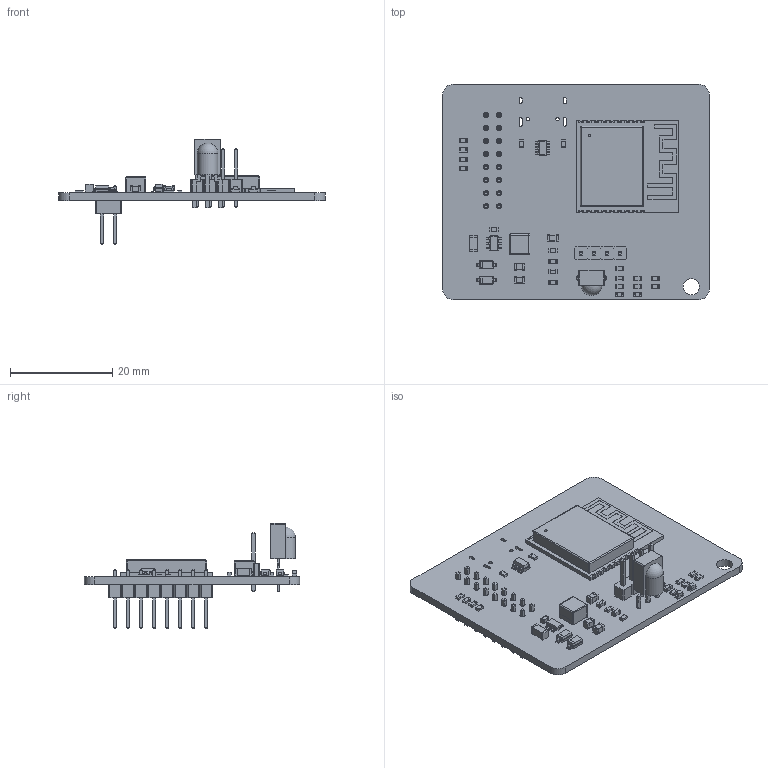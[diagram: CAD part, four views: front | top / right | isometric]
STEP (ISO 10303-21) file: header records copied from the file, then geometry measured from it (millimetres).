
FILE_DESCRIPTION(('KiCad electronic assembly'),'2;1');
FILE_NAME('AP1_Programador.step','2026-10-02T06:37:34',('Pcbnew'),( 'Kicad'),'Open CASCADE STEP processor 7.6','KiCad to STEP converter' ,'Unknown');
FILE_SCHEMA(('AUTOMOTIVE_DESIGN { 1 0 10303 214 1 1 1 1 }'));
Length unit declared in the file: millimetre
Products named in the file (15): AP1_Programador 1; R_0603_1608Metric; C_0603_1608Metric; TSOT-23-6; C_0805_2012Metric; Vishay_MINICAST-3Pin; D_SOD-123; LED_0603_1608Metric; ESP32-C3-WROOM-02; C_1206_3216Metric; L_Changjiang_FNR4030S; PinHeader_1x04_P2.54mm_Vertical; SOT-23-6; PinHeader_2x08_P2.54mm_Vertical; AP1_Programador_PCB
Assembly tree (34 placements, depth 2):
  AP1_Programador 1
    R_0603_1608Metric  x14
    C_0603_1608Metric  x4
    TSOT-23-6
    C_0805_2012Metric  x3
    Vishay_MINICAST-3Pin
    D_SOD-123  x2
    LED_0603_1608Metric  x2
    ESP32-C3-WROOM-02
    C_1206_3216Metric
    L_Changjiang_FNR4030S
    PinHeader_1x04_P2.54mm_Vertical
    SOT-23-6
    PinHeader_2x08_P2.54mm_Vertical
    AP1_Programador_PCB
Bounding box: 52 x 42 x 20.57 mm (x, y, z)
Volume: 4632.6 mm3; surface area: 7609.3 mm2
Topology: 63 solids, 63 shells, 1987 faces, 4979 edges, 3171 vertices
Faces by surface type: plane 1494, cylinder 372, bspline 112, sphere 9
Full cylindrical faces by diameter (mm): 0.3 x4, 0.5 x1, 0.65 x2, 0.9 x3, 1 x20, 3.2 x1
Entity records: 40609 total; most frequent: CARTESIAN_POINT 7399, ORIENTED_EDGE 6874, DIRECTION 6412, EDGE_CURVE 3437, LINE 2952, VECTOR 2952, VERTEX_POINT 2181, AXIS2_PLACEMENT_3D 1730
